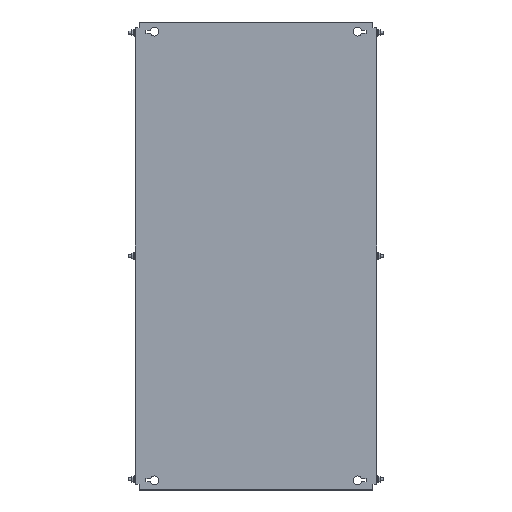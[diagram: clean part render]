
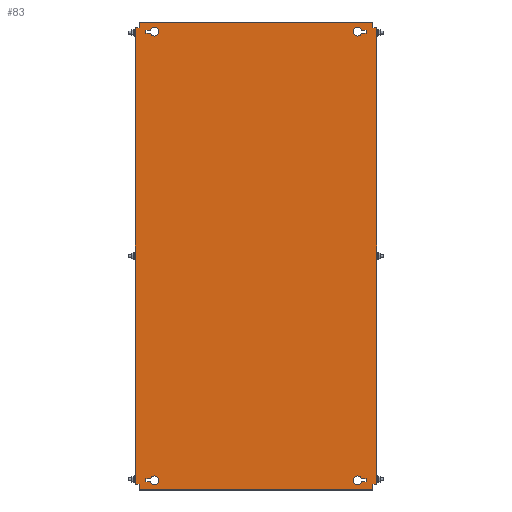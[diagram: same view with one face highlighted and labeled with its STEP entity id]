
A CAD part, top view. The second image highlights one B-rep face of the part: STEP entity #83.
In plain terms, the highlighted planar face has unit normal (0, 0, 1).
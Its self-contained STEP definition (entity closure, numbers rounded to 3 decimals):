
#83 = ADVANCED_FACE('',(#84,#119,#154,#316,#351),#386,.T.);
#84 = FACE_BOUND('',#85,.T.);
#85 = EDGE_LOOP('',(#86,#96,#104,#112));
#86 = ORIENTED_EDGE('',*,*,#87,.T.);
#87 = EDGE_CURVE('',#88,#90,#92,.T.);
#88 = VERTEX_POINT('',#89);
#89 = CARTESIAN_POINT('',(218.393,467.75,2.));
#90 = VERTEX_POINT('',#91);
#91 = CARTESIAN_POINT('',(228.,467.75,2.));
#92 = LINE('',#93,#94);
#93 = CARTESIAN_POINT('',(227.,467.75,2.));
#94 = VECTOR('',#95,1.);
#95 = DIRECTION('',(1.,0.,0.));
#96 = ORIENTED_EDGE('',*,*,#97,.T.);
#97 = EDGE_CURVE('',#90,#98,#100,.T.);
#98 = VERTEX_POINT('',#99);
#99 = CARTESIAN_POINT('',(228.,461.25,2.));
#100 = LINE('',#101,#102);
#101 = CARTESIAN_POINT('',(228.,467.75,2.));
#102 = VECTOR('',#103,1.);
#103 = DIRECTION('',(0.,-1.,0.));
#104 = ORIENTED_EDGE('',*,*,#105,.T.);
#105 = EDGE_CURVE('',#98,#106,#108,.T.);
#106 = VERTEX_POINT('',#107);
#107 = CARTESIAN_POINT('',(218.393,461.25,2.));
#108 = LINE('',#109,#110);
#109 = CARTESIAN_POINT('',(227.,461.25,2.));
#110 = VECTOR('',#111,1.);
#111 = DIRECTION('',(-1.,0.,0.));
#112 = ORIENTED_EDGE('',*,*,#113,.T.);
#113 = EDGE_CURVE('',#106,#88,#114,.T.);
#114 = CIRCLE('',#115,9.);
#115 = AXIS2_PLACEMENT_3D('',#116,#117,#118);
#116 = CARTESIAN_POINT('',(210.,464.5,2.));
#117 = DIRECTION('',(0.,0.,-1.));
#118 = DIRECTION('',(1.,0.,0.));
#119 = FACE_BOUND('',#120,.T.);
#120 = EDGE_LOOP('',(#121,#131,#139,#147));
#121 = ORIENTED_EDGE('',*,*,#122,.T.);
#122 = EDGE_CURVE('',#123,#125,#127,.T.);
#123 = VERTEX_POINT('',#124);
#124 = CARTESIAN_POINT('',(-218.393,-467.75,2.));
#125 = VERTEX_POINT('',#126);
#126 = CARTESIAN_POINT('',(-228.,-467.75,2.));
#127 = LINE('',#128,#129);
#128 = CARTESIAN_POINT('',(-227.,-467.75,2.));
#129 = VECTOR('',#130,1.);
#130 = DIRECTION('',(-1.,0.,0.));
#131 = ORIENTED_EDGE('',*,*,#132,.T.);
#132 = EDGE_CURVE('',#125,#133,#135,.T.);
#133 = VERTEX_POINT('',#134);
#134 = CARTESIAN_POINT('',(-228.,-461.25,2.));
#135 = LINE('',#136,#137);
#136 = CARTESIAN_POINT('',(-228.,-467.75,2.));
#137 = VECTOR('',#138,1.);
#138 = DIRECTION('',(0.,1.,0.));
#139 = ORIENTED_EDGE('',*,*,#140,.T.);
#140 = EDGE_CURVE('',#133,#141,#143,.T.);
#141 = VERTEX_POINT('',#142);
#142 = CARTESIAN_POINT('',(-218.393,-461.25,2.));
#143 = LINE('',#144,#145);
#144 = CARTESIAN_POINT('',(-227.,-461.25,2.));
#145 = VECTOR('',#146,1.);
#146 = DIRECTION('',(1.,-0.,-0.));
#147 = ORIENTED_EDGE('',*,*,#148,.T.);
#148 = EDGE_CURVE('',#141,#123,#149,.T.);
#149 = CIRCLE('',#150,9.);
#150 = AXIS2_PLACEMENT_3D('',#151,#152,#153);
#151 = CARTESIAN_POINT('',(-210.,-464.5,2.));
#152 = DIRECTION('',(0.,0.,-1.));
#153 = DIRECTION('',(-1.,0.,0.));
#154 = FACE_BOUND('',#155,.T.);
#155 = EDGE_LOOP('',(#156,#166,#174,#182,#190,#198,#206,#214,#222,#230,
    #238,#246,#254,#262,#270,#278,#286,#294,#302,#310));
#156 = ORIENTED_EDGE('',*,*,#157,.F.);
#157 = EDGE_CURVE('',#158,#160,#162,.T.);
#158 = VERTEX_POINT('',#159);
#159 = CARTESIAN_POINT('',(-247.4,472.5,2.));
#160 = VERTEX_POINT('',#161);
#161 = CARTESIAN_POINT('',(-242.,472.5,2.));
#162 = LINE('',#163,#164);
#163 = CARTESIAN_POINT('',(-248.,472.5,2.));
#164 = VECTOR('',#165,1.);
#165 = DIRECTION('',(1.,0.,-0.));
#166 = ORIENTED_EDGE('',*,*,#167,.T.);
#167 = EDGE_CURVE('',#158,#168,#170,.T.);
#168 = VERTEX_POINT('',#169);
#169 = CARTESIAN_POINT('',(-250.,472.5,2.));
#170 = LINE('',#171,#172);
#171 = CARTESIAN_POINT('',(-247.4,472.5,2.));
#172 = VECTOR('',#173,1.);
#173 = DIRECTION('',(-1.,0.,0.));
#174 = ORIENTED_EDGE('',*,*,#175,.F.);
#175 = EDGE_CURVE('',#176,#168,#178,.T.);
#176 = VERTEX_POINT('',#177);
#177 = CARTESIAN_POINT('',(-250.,-472.5,2.));
#178 = LINE('',#179,#180);
#179 = CARTESIAN_POINT('',(-250.,-482.5,2.));
#180 = VECTOR('',#181,1.);
#181 = DIRECTION('',(0.,1.,-0.));
#182 = ORIENTED_EDGE('',*,*,#183,.F.);
#183 = EDGE_CURVE('',#184,#176,#186,.T.);
#184 = VERTEX_POINT('',#185);
#185 = CARTESIAN_POINT('',(-247.4,-472.5,2.));
#186 = LINE('',#187,#188);
#187 = CARTESIAN_POINT('',(-242.,-472.5,2.));
#188 = VECTOR('',#189,1.);
#189 = DIRECTION('',(-1.,-0.,-0.));
#190 = ORIENTED_EDGE('',*,*,#191,.T.);
#191 = EDGE_CURVE('',#184,#192,#194,.T.);
#192 = VERTEX_POINT('',#193);
#193 = CARTESIAN_POINT('',(-242.,-472.5,2.));
#194 = LINE('',#195,#196);
#195 = CARTESIAN_POINT('',(-248.,-472.5,2.));
#196 = VECTOR('',#197,1.);
#197 = DIRECTION('',(1.,0.,-0.));
#198 = ORIENTED_EDGE('',*,*,#199,.T.);
#199 = EDGE_CURVE('',#192,#200,#202,.T.);
#200 = VERTEX_POINT('',#201);
#201 = CARTESIAN_POINT('',(-242.,-481.9,2.));
#202 = LINE('',#203,#204);
#203 = CARTESIAN_POINT('',(-242.,482.5,2.));
#204 = VECTOR('',#205,1.);
#205 = DIRECTION('',(0.,-1.,0.));
#206 = ORIENTED_EDGE('',*,*,#207,.T.);
#207 = EDGE_CURVE('',#200,#208,#210,.T.);
#208 = VERTEX_POINT('',#209);
#209 = CARTESIAN_POINT('',(-242.,-482.5,2.));
#210 = LINE('',#211,#212);
#211 = CARTESIAN_POINT('',(-242.,-481.9,2.));
#212 = VECTOR('',#213,1.);
#213 = DIRECTION('',(-0.,-1.,-0.));
#214 = ORIENTED_EDGE('',*,*,#215,.T.);
#215 = EDGE_CURVE('',#208,#216,#218,.T.);
#216 = VERTEX_POINT('',#217);
#217 = CARTESIAN_POINT('',(242.,-482.5,2.));
#218 = LINE('',#219,#220);
#219 = CARTESIAN_POINT('',(242.,-482.5,2.));
#220 = VECTOR('',#221,1.);
#221 = DIRECTION('',(1.,0.,0.));
#222 = ORIENTED_EDGE('',*,*,#223,.F.);
#223 = EDGE_CURVE('',#224,#216,#226,.T.);
#224 = VERTEX_POINT('',#225);
#225 = CARTESIAN_POINT('',(242.,-481.9,2.));
#226 = LINE('',#227,#228);
#227 = CARTESIAN_POINT('',(242.,-482.5,2.));
#228 = VECTOR('',#229,1.);
#229 = DIRECTION('',(0.,-1.,0.));
#230 = ORIENTED_EDGE('',*,*,#231,.T.);
#231 = EDGE_CURVE('',#224,#232,#234,.T.);
#232 = VERTEX_POINT('',#233);
#233 = CARTESIAN_POINT('',(242.,-472.5,2.));
#234 = LINE('',#235,#236);
#235 = CARTESIAN_POINT('',(242.,482.5,2.));
#236 = VECTOR('',#237,1.);
#237 = DIRECTION('',(0.,1.,-0.));
#238 = ORIENTED_EDGE('',*,*,#239,.F.);
#239 = EDGE_CURVE('',#240,#232,#242,.T.);
#240 = VERTEX_POINT('',#241);
#241 = CARTESIAN_POINT('',(247.4,-472.5,2.));
#242 = LINE('',#243,#244);
#243 = CARTESIAN_POINT('',(248.,-472.5,2.));
#244 = VECTOR('',#245,1.);
#245 = DIRECTION('',(-1.,0.,-0.));
#246 = ORIENTED_EDGE('',*,*,#247,.T.);
#247 = EDGE_CURVE('',#240,#248,#250,.T.);
#248 = VERTEX_POINT('',#249);
#249 = CARTESIAN_POINT('',(250.,-472.5,2.));
#250 = LINE('',#251,#252);
#251 = CARTESIAN_POINT('',(247.4,-472.5,2.));
#252 = VECTOR('',#253,1.);
#253 = DIRECTION('',(1.,-0.,0.));
#254 = ORIENTED_EDGE('',*,*,#255,.F.);
#255 = EDGE_CURVE('',#256,#248,#258,.T.);
#256 = VERTEX_POINT('',#257);
#257 = CARTESIAN_POINT('',(250.,472.5,2.));
#258 = LINE('',#259,#260);
#259 = CARTESIAN_POINT('',(250.,-482.5,2.));
#260 = VECTOR('',#261,1.);
#261 = DIRECTION('',(0.,-1.,-0.));
#262 = ORIENTED_EDGE('',*,*,#263,.F.);
#263 = EDGE_CURVE('',#264,#256,#266,.T.);
#264 = VERTEX_POINT('',#265);
#265 = CARTESIAN_POINT('',(247.4,472.5,2.));
#266 = LINE('',#267,#268);
#267 = CARTESIAN_POINT('',(-242.,472.5,2.));
#268 = VECTOR('',#269,1.);
#269 = DIRECTION('',(1.,-0.,0.));
#270 = ORIENTED_EDGE('',*,*,#271,.T.);
#271 = EDGE_CURVE('',#264,#272,#274,.T.);
#272 = VERTEX_POINT('',#273);
#273 = CARTESIAN_POINT('',(242.,472.5,2.));
#274 = LINE('',#275,#276);
#275 = CARTESIAN_POINT('',(248.,472.5,2.));
#276 = VECTOR('',#277,1.);
#277 = DIRECTION('',(-1.,0.,-0.));
#278 = ORIENTED_EDGE('',*,*,#279,.T.);
#279 = EDGE_CURVE('',#272,#280,#282,.T.);
#280 = VERTEX_POINT('',#281);
#281 = CARTESIAN_POINT('',(242.,481.9,2.));
#282 = LINE('',#283,#284);
#283 = CARTESIAN_POINT('',(242.,482.5,2.));
#284 = VECTOR('',#285,1.);
#285 = DIRECTION('',(0.,1.,-0.));
#286 = ORIENTED_EDGE('',*,*,#287,.T.);
#287 = EDGE_CURVE('',#280,#288,#290,.T.);
#288 = VERTEX_POINT('',#289);
#289 = CARTESIAN_POINT('',(242.,482.5,2.));
#290 = LINE('',#291,#292);
#291 = CARTESIAN_POINT('',(242.,481.9,2.));
#292 = VECTOR('',#293,1.);
#293 = DIRECTION('',(-0.,1.,-0.));
#294 = ORIENTED_EDGE('',*,*,#295,.T.);
#295 = EDGE_CURVE('',#288,#296,#298,.T.);
#296 = VERTEX_POINT('',#297);
#297 = CARTESIAN_POINT('',(-242.,482.5,2.));
#298 = LINE('',#299,#300);
#299 = CARTESIAN_POINT('',(-242.,482.5,2.));
#300 = VECTOR('',#301,1.);
#301 = DIRECTION('',(-1.,0.,0.));
#302 = ORIENTED_EDGE('',*,*,#303,.F.);
#303 = EDGE_CURVE('',#304,#296,#306,.T.);
#304 = VERTEX_POINT('',#305);
#305 = CARTESIAN_POINT('',(-242.,481.9,2.));
#306 = LINE('',#307,#308);
#307 = CARTESIAN_POINT('',(-242.,-482.5,2.));
#308 = VECTOR('',#309,1.);
#309 = DIRECTION('',(0.,1.,-0.));
#310 = ORIENTED_EDGE('',*,*,#311,.T.);
#311 = EDGE_CURVE('',#304,#160,#312,.T.);
#312 = LINE('',#313,#314);
#313 = CARTESIAN_POINT('',(-242.,482.5,2.));
#314 = VECTOR('',#315,1.);
#315 = DIRECTION('',(0.,-1.,0.));
#316 = FACE_BOUND('',#317,.T.);
#317 = EDGE_LOOP('',(#318,#328,#336,#344));
#318 = ORIENTED_EDGE('',*,*,#319,.F.);
#319 = EDGE_CURVE('',#320,#322,#324,.T.);
#320 = VERTEX_POINT('',#321);
#321 = CARTESIAN_POINT('',(228.,-461.25,2.));
#322 = VERTEX_POINT('',#323);
#323 = CARTESIAN_POINT('',(218.393,-461.25,2.));
#324 = LINE('',#325,#326);
#325 = CARTESIAN_POINT('',(218.393,-461.25,2.));
#326 = VECTOR('',#327,1.);
#327 = DIRECTION('',(-1.,0.,0.));
#328 = ORIENTED_EDGE('',*,*,#329,.F.);
#329 = EDGE_CURVE('',#330,#320,#332,.T.);
#330 = VERTEX_POINT('',#331);
#331 = CARTESIAN_POINT('',(228.,-467.75,2.));
#332 = LINE('',#333,#334);
#333 = CARTESIAN_POINT('',(228.,-461.25,2.));
#334 = VECTOR('',#335,1.);
#335 = DIRECTION('',(0.,1.,0.));
#336 = ORIENTED_EDGE('',*,*,#337,.F.);
#337 = EDGE_CURVE('',#338,#330,#340,.T.);
#338 = VERTEX_POINT('',#339);
#339 = CARTESIAN_POINT('',(218.393,-467.75,2.));
#340 = LINE('',#341,#342);
#341 = CARTESIAN_POINT('',(227.,-467.75,2.));
#342 = VECTOR('',#343,1.);
#343 = DIRECTION('',(1.,0.,0.));
#344 = ORIENTED_EDGE('',*,*,#345,.F.);
#345 = EDGE_CURVE('',#322,#338,#346,.T.);
#346 = CIRCLE('',#347,9.);
#347 = AXIS2_PLACEMENT_3D('',#348,#349,#350);
#348 = CARTESIAN_POINT('',(210.,-464.5,2.));
#349 = DIRECTION('',(0.,-0.,1.));
#350 = DIRECTION('',(1.,0.,0.));
#351 = FACE_BOUND('',#352,.T.);
#352 = EDGE_LOOP('',(#353,#363,#371,#379));
#353 = ORIENTED_EDGE('',*,*,#354,.F.);
#354 = EDGE_CURVE('',#355,#357,#359,.T.);
#355 = VERTEX_POINT('',#356);
#356 = CARTESIAN_POINT('',(-228.,461.25,2.));
#357 = VERTEX_POINT('',#358);
#358 = CARTESIAN_POINT('',(-218.393,461.25,2.));
#359 = LINE('',#360,#361);
#360 = CARTESIAN_POINT('',(-218.393,461.25,2.));
#361 = VECTOR('',#362,1.);
#362 = DIRECTION('',(1.,0.,0.));
#363 = ORIENTED_EDGE('',*,*,#364,.F.);
#364 = EDGE_CURVE('',#365,#355,#367,.T.);
#365 = VERTEX_POINT('',#366);
#366 = CARTESIAN_POINT('',(-228.,467.75,2.));
#367 = LINE('',#368,#369);
#368 = CARTESIAN_POINT('',(-228.,461.25,2.));
#369 = VECTOR('',#370,1.);
#370 = DIRECTION('',(0.,-1.,0.));
#371 = ORIENTED_EDGE('',*,*,#372,.F.);
#372 = EDGE_CURVE('',#373,#365,#375,.T.);
#373 = VERTEX_POINT('',#374);
#374 = CARTESIAN_POINT('',(-218.393,467.75,2.));
#375 = LINE('',#376,#377);
#376 = CARTESIAN_POINT('',(-227.,467.75,2.));
#377 = VECTOR('',#378,1.);
#378 = DIRECTION('',(-1.,0.,0.));
#379 = ORIENTED_EDGE('',*,*,#380,.F.);
#380 = EDGE_CURVE('',#357,#373,#381,.T.);
#381 = CIRCLE('',#382,9.);
#382 = AXIS2_PLACEMENT_3D('',#383,#384,#385);
#383 = CARTESIAN_POINT('',(-210.,464.5,2.));
#384 = DIRECTION('',(0.,-0.,1.));
#385 = DIRECTION('',(-1.,0.,0.));
#386 = PLANE('',#387);
#387 = AXIS2_PLACEMENT_3D('',#388,#389,#390);
#388 = CARTESIAN_POINT('',(-242.,-482.5,2.));
#389 = DIRECTION('',(-0.,0.,1.));
#390 = DIRECTION('',(1.,0.,0.));
